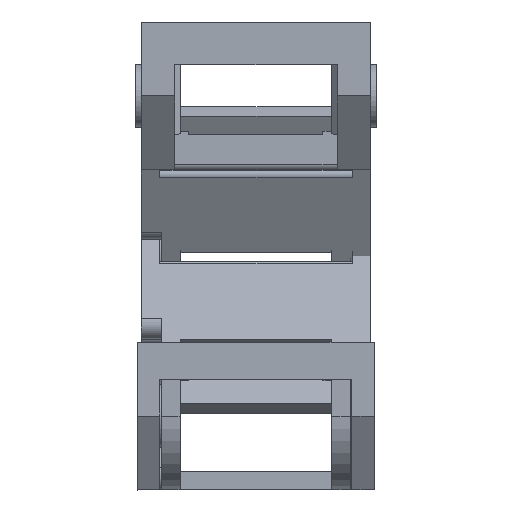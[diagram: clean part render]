
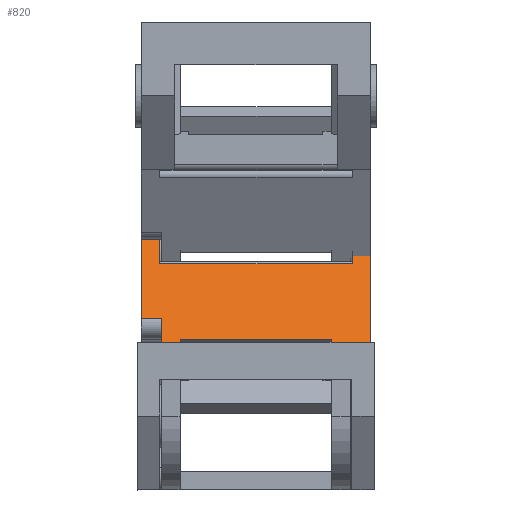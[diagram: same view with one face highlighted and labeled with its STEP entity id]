
A CAD part, front view. The second image highlights one B-rep face of the part: STEP entity #820.
In plain terms, the highlighted planar face has unit normal (0, -0.866, 0.5).
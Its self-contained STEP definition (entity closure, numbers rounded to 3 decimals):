
#820=ADVANCED_FACE('',(#1633),#1269,.T.);
#1269=PLANE('',#10412);
#1633=FACE_OUTER_BOUND('',#2122,.T.);
#2122=EDGE_LOOP('',(#3811,#3812,#3813,#3814,#3815,#3816,#3817,#3818,#3819,
#3820,#3821,#3822,#3823,#3824,#3825,#3826));
#3811=ORIENTED_EDGE('',*,*,#7112,.F.);
#3812=ORIENTED_EDGE('',*,*,#7114,.F.);
#3813=ORIENTED_EDGE('',*,*,#7115,.T.);
#3814=ORIENTED_EDGE('',*,*,#7116,.F.);
#3815=ORIENTED_EDGE('',*,*,#7079,.T.);
#3816=ORIENTED_EDGE('',*,*,#7094,.T.);
#3817=ORIENTED_EDGE('',*,*,#7047,.F.);
#3818=ORIENTED_EDGE('',*,*,#7056,.T.);
#3819=ORIENTED_EDGE('',*,*,#7010,.F.);
#3820=ORIENTED_EDGE('',*,*,#7068,.F.);
#3821=ORIENTED_EDGE('',*,*,#7077,.F.);
#3822=ORIENTED_EDGE('',*,*,#7003,.F.);
#3823=ORIENTED_EDGE('',*,*,#7117,.T.);
#3824=ORIENTED_EDGE('',*,*,#7118,.T.);
#3825=ORIENTED_EDGE('',*,*,#7119,.T.);
#3826=ORIENTED_EDGE('',*,*,#7120,.F.);
#5900=VERTEX_POINT('',#14513);
#5902=VERTEX_POINT('',#14516);
#5909=VERTEX_POINT('',#14532);
#5910=VERTEX_POINT('',#14534);
#5936=VERTEX_POINT('',#14610);
#5937=VERTEX_POINT('',#14612);
#5952=VERTEX_POINT('',#14652);
#5958=VERTEX_POINT('',#14674);
#5959=VERTEX_POINT('',#14675);
#5978=VERTEX_POINT('',#14758);
#5979=VERTEX_POINT('',#14760);
#5980=VERTEX_POINT('',#14764);
#5981=VERTEX_POINT('',#14766);
#5982=VERTEX_POINT('',#14769);
#5983=VERTEX_POINT('',#14771);
#5984=VERTEX_POINT('',#14773);
#7003=EDGE_CURVE('',#5902,#5900,#8311,.T.);
#7010=EDGE_CURVE('',#5909,#5910,#8318,.T.);
#7047=EDGE_CURVE('',#5936,#5937,#8350,.T.);
#7056=EDGE_CURVE('',#5936,#5910,#8356,.T.);
#7068=EDGE_CURVE('',#5952,#5909,#8366,.T.);
#7077=EDGE_CURVE('',#5900,#5952,#8375,.T.);
#7079=EDGE_CURVE('',#5958,#5959,#8377,.T.);
#7094=EDGE_CURVE('',#5959,#5937,#8386,.T.);
#7112=EDGE_CURVE('',#5978,#5979,#8395,.T.);
#7114=EDGE_CURVE('',#5980,#5978,#8396,.T.);
#7115=EDGE_CURVE('',#5980,#5981,#8397,.T.);
#7116=EDGE_CURVE('',#5958,#5981,#8398,.T.);
#7117=EDGE_CURVE('',#5902,#5982,#8399,.T.);
#7118=EDGE_CURVE('',#5982,#5983,#8400,.T.);
#7119=EDGE_CURVE('',#5983,#5984,#8401,.T.);
#7120=EDGE_CURVE('',#5979,#5984,#8402,.T.);
#8311=LINE('',#14517,#9368);
#8318=LINE('',#14533,#9375);
#8350=LINE('',#14611,#9407);
#8356=LINE('',#14630,#9413);
#8366=LINE('',#14653,#9423);
#8375=LINE('',#14670,#9432);
#8377=LINE('',#14673,#9434);
#8386=LINE('',#14703,#9443);
#8395=LINE('',#14759,#9452);
#8396=LINE('',#14763,#9453);
#8397=LINE('',#14765,#9454);
#8398=LINE('',#14767,#9455);
#8399=LINE('',#14768,#9456);
#8400=LINE('',#14770,#9457);
#8401=LINE('',#14772,#9458);
#8402=LINE('',#14774,#9459);
#9368=VECTOR('',#11732,1.);
#9375=VECTOR('',#11743,1.);
#9407=VECTOR('',#11805,1.);
#9413=VECTOR('',#11823,1.);
#9423=VECTOR('',#11841,1.);
#9432=VECTOR('',#11856,1.);
#9434=VECTOR('',#11860,1.);
#9443=VECTOR('',#11891,1.);
#9452=VECTOR('',#11924,1.);
#9453=VECTOR('',#11929,1.);
#9454=VECTOR('',#11930,1.);
#9455=VECTOR('',#11931,1.);
#9456=VECTOR('',#11932,1.);
#9457=VECTOR('',#11933,1.);
#9458=VECTOR('',#11934,1.);
#9459=VECTOR('',#11935,1.);
#10412=AXIS2_PLACEMENT_3D('',#14775,#11936,#11937);
#11732=DIRECTION('',(0.,0.5,0.866));
#11743=DIRECTION('',(-1.,0.,0.));
#11805=DIRECTION('',(-1.,0.,0.));
#11823=DIRECTION('',(0.,0.5,0.866));
#11841=DIRECTION('',(0.,0.5,0.866));
#11856=DIRECTION('',(-1.,0.,0.));
#11860=DIRECTION('',(1.,0.,0.));
#11891=DIRECTION('',(0.,-0.5,-0.866));
#11924=DIRECTION('',(1.,0.,0.));
#11929=DIRECTION('',(0.,-0.5,-0.866));
#11930=DIRECTION('',(-1.,0.,0.));
#11931=DIRECTION('',(0.,0.5,0.866));
#11932=DIRECTION('',(1.,0.,0.));
#11933=DIRECTION('',(0.,0.5,0.866));
#11934=DIRECTION('',(-1.,0.,0.));
#11935=DIRECTION('',(0.,0.5,0.866));
#11936=DIRECTION('',(0.,-0.866,0.5));
#11937=DIRECTION('',(0.,0.5,0.866));
#14513=CARTESIAN_POINT('',(416.278,-226.312,-8.334));
#14516=CARTESIAN_POINT('',(416.278,-226.564,-8.771));
#14517=CARTESIAN_POINT('',(416.278,-214.718,11.747));
#14532=CARTESIAN_POINT('',(415.278,-226.033,-7.85));
#14533=CARTESIAN_POINT('',(405.278,-226.033,-7.85));
#14534=CARTESIAN_POINT('',(407.068,-226.033,-7.85));
#14610=CARTESIAN_POINT('',(407.068,-226.312,-8.334));
#14611=CARTESIAN_POINT('',(405.268,-226.312,-8.334));
#14612=CARTESIAN_POINT('',(406.068,-226.312,-8.334));
#14630=CARTESIAN_POINT('',(407.068,-224.314,-4.874));
#14652=CARTESIAN_POINT('',(415.278,-226.312,-8.334));
#14653=CARTESIAN_POINT('',(415.278,-220.283,2.109));
#14670=CARTESIAN_POINT('',(408.468,-226.312,-8.334));
#14673=CARTESIAN_POINT('',(406.328,-225.383,-6.724));
#14674=CARTESIAN_POINT('',(404.978,-225.383,-6.724));
#14675=CARTESIAN_POINT('',(406.068,-225.383,-6.724));
#14703=CARTESIAN_POINT('',(406.068,-220.283,2.109));
#14758=CARTESIAN_POINT('',(405.978,-223.682,-3.778));
#14759=CARTESIAN_POINT('',(406.318,-223.682,-3.778));
#14760=CARTESIAN_POINT('',(416.378,-223.682,-3.778));
#14763=CARTESIAN_POINT('',(405.978,-219.783,2.975));
#14764=CARTESIAN_POINT('',(405.978,-222.283,-1.355));
#14765=CARTESIAN_POINT('',(405.328,-222.283,-1.355));
#14766=CARTESIAN_POINT('',(404.978,-222.283,-1.355));
#14767=CARTESIAN_POINT('',(404.978,-224.783,-5.685));
#14768=CARTESIAN_POINT('',(416.278,-226.564,-8.771));
#14769=CARTESIAN_POINT('',(417.378,-226.564,-8.771));
#14770=CARTESIAN_POINT('',(417.378,-224.783,-5.685));
#14771=CARTESIAN_POINT('',(417.378,-222.283,-1.355));
#14772=CARTESIAN_POINT('',(417.018,-222.283,-1.355));
#14773=CARTESIAN_POINT('',(416.378,-222.283,-1.355));
#14774=CARTESIAN_POINT('',(416.378,-220.283,2.109));
#14775=CARTESIAN_POINT('',(405.278,-220.283,2.109));
